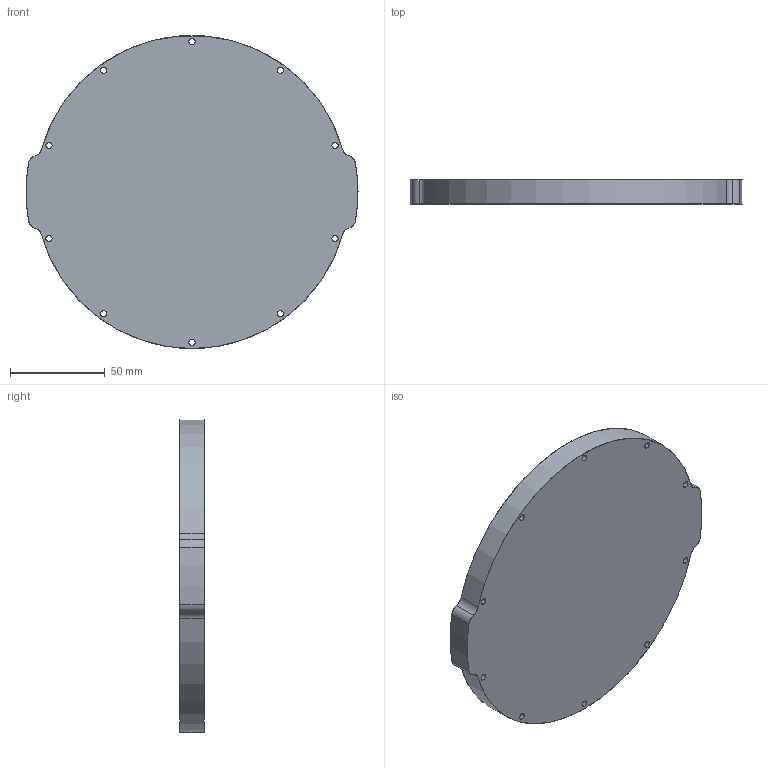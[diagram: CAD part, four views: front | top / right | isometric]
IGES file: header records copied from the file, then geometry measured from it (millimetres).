
Start section: SolidWorks IGES file using analytic representation for surfaces
Global section: file name: C:\Users\Jonathan\Dropbox\BR-Engineering\Models\WTE6-X1A-PUBLIC\WTE6-P-END-CAP-R1.IGS; native system: SolidWorks 2014; preprocessor: SolidWorks 2014; author: Jonathan; date: 170111.142301; units: millimetre
Bounding box: 175.1 x 12.7 x 165.1 mm (x, y, z)
Surface area: 51466 mm2 (no closed solid volume)
Topology: 0 solids, 0 shells, 35 faces, 660 edges, 660 vertices
Faces by surface type: revolution 33, bspline 2
